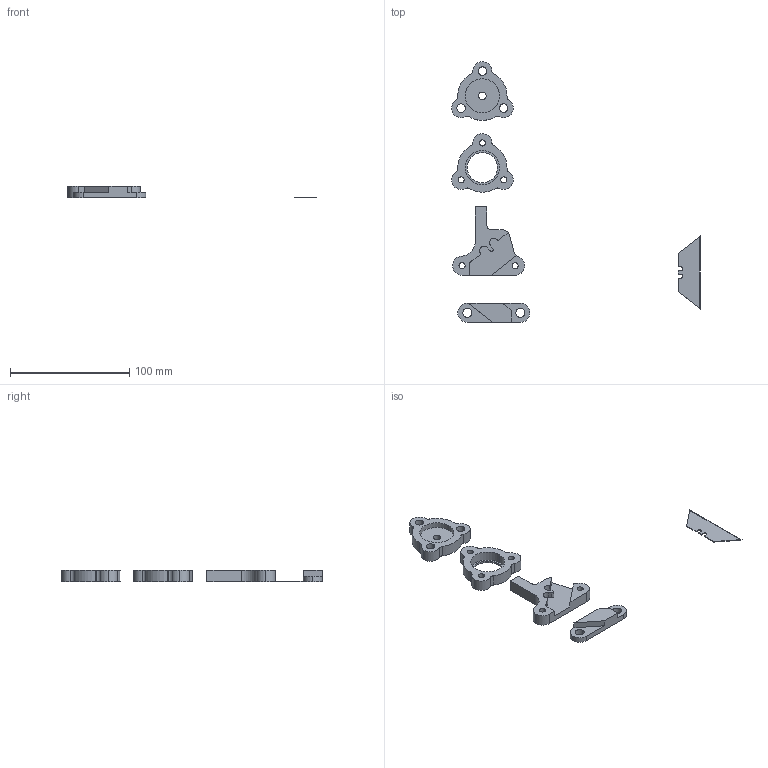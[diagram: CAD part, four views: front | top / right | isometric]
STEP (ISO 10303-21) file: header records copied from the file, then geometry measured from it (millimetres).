
FILE_DESCRIPTION (( 'STEP AP203' ), '1' );
FILE_NAME ('DK_v2_BOTTOM_BEARING.STEP', '2017-08-14T17:19:59', ( '' ), ( '' ), 'SwSTEP 2.0', 'SolidWorks 2015', '' );
FILE_SCHEMA (( 'CONFIG_CONTROL_DESIGN' ));
Length unit declared in the file: inch
Products named in the file (1): DK_v2_BOTTOM_BEARING
Bounding box: 208.44 x 218.23 x 9.65 mm (x, y, z)
Volume: 40363.1 mm3; surface area: 21657.3 mm2
Topology: 5 solids, 5 shells, 126 faces, 342 edges, 228 vertices
Faces by surface type: cylinder 81, plane 45
Entity records: 4169 total; most frequent: DIRECTION 760, CARTESIAN_POINT 697, ORIENTED_EDGE 684, EDGE_CURVE 342, AXIS2_PLACEMENT_3D 291, VERTEX_POINT 228, LINE 178, VECTOR 178
